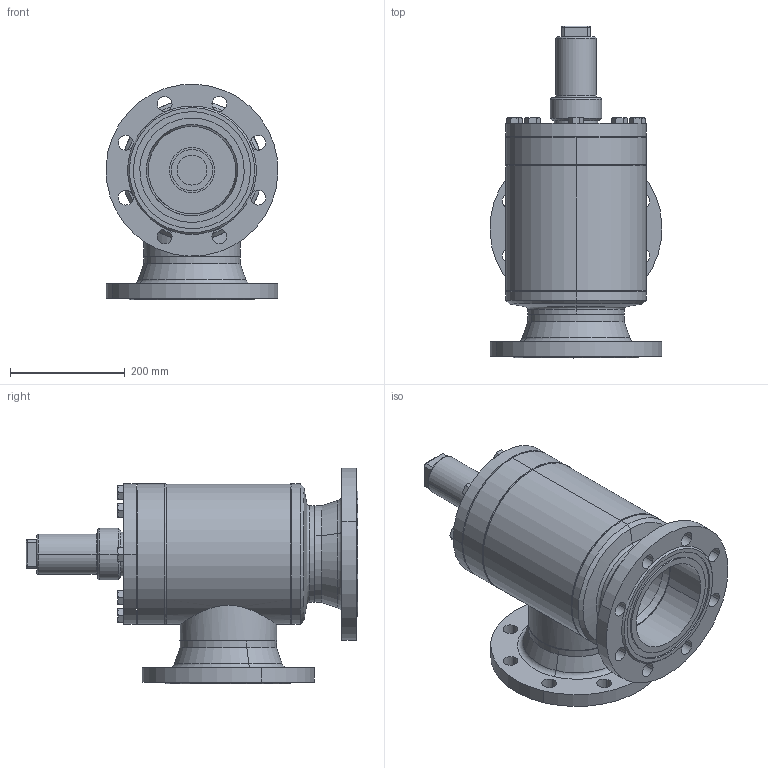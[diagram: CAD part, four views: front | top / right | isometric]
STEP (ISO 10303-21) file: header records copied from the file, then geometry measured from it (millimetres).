
FILE_DESCRIPTION (( 'STEP AP214' ), '1' );
FILE_NAME ('AVB16420D21-DN150_DIN-FL-N_PS40.STEP', '2006-04-27T12:31:06', ( 'Herr Grams' ), ( 'AWP GmbH' ), 'SwSTEP 2.0', 'SolidWorks 2002296', '' );
FILE_SCHEMA (( 'AUTOMOTIVE_DESIGN' ));
Length unit declared in the file: millimetre
Products named in the file (15): AVB16420D21-DN150_DIN-FL-N_PS40; Kappe16402_DN125-150_Standard; Gehäuse-kpl16420-DN150_DIN_PS40_Standard; Gehäuse16300-DN150_Standard; Kopfstück16300-DN150_Standard; Rohrstutzen-A16300-DN150_R1_Standard; Flansch-DIN-Nut_PS40_DIN-Flansch-DN150_PS40-Nut; Boden16300-DN150_Standard; bead-DN150-4_Standard; bead-DN150-3_Standard; bead-DN150-1_Standard; bead-DN150-2_Standard; AVB16300E21_Deck+Schr-DN150_Standard; Deckel16300E21-DN150_Standard; Sechskantschraube-DIN933_M16x 45
Assembly tree (22 placements, depth 3):
  AVB16420D21-DN150_DIN-FL-N_PS40
    Gehäuse-kpl16420-DN150_DIN_PS40_Standard
      Flansch-DIN-Nut_PS40_DIN-Flansch-DN150_PS40-Nut  x2
      bead-DN150-1_Standard
      Kopfstück16300-DN150_Standard
      bead-DN150-2_Standard
      Boden16300-DN150_Standard
      Rohrstutzen-A16300-DN150_R1_Standard
      bead-DN150-4_Standard
      Gehäuse16300-DN150_Standard
      bead-DN150-3_Standard
    Kappe16402_DN125-150_Standard
    AVB16300E21_Deck+Schr-DN150_Standard
      Sechskantschraube-DIN933_M16x 45  x8
      Deckel16300E21-DN150_Standard
Bounding box: 299.71 x 578.5 x 375.86 mm (x, y, z)
Volume: 8685289.7 mm3; surface area: 1342858.1 mm2
Topology: 20 solids, 20 shells, 435 faces, 966 edges, 582 vertices
Faces by surface type: cylinder 145, cone 134, plane 124, torus 16, bspline 16
Entity records: 9815 total; most frequent: CARTESIAN_POINT 3865, DIRECTION 1134, ORIENTED_EDGE 996, EDGE_CURVE 498, AXIS2_PLACEMENT_3D 495, VERTEX_POINT 308, EDGE_LOOP 282, CIRCLE 262
